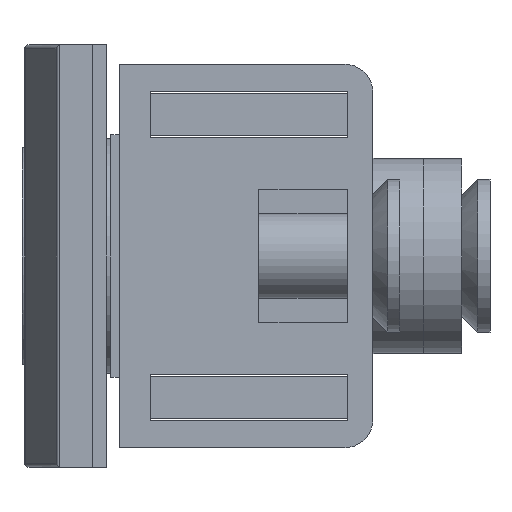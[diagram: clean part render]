
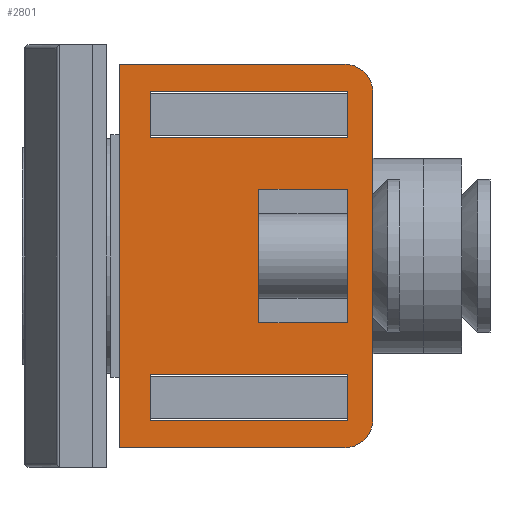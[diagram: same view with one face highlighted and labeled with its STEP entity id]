
A CAD part, left-side view. The second image highlights one B-rep face of the part: STEP entity #2801.
In plain terms, the highlighted planar face has unit normal (-1, 0, 0).
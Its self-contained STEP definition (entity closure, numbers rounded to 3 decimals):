
#19 = CIRCLE ( 'NONE', #7731, 2. ) ;
#40 = CARTESIAN_POINT ( 'NONE',  ( -55.65, -20.5, -4.75 ) ) ;
#138 = EDGE_CURVE ( 'NONE', #3361, #7144, #1543, .T. ) ;
#315 = DIRECTION ( 'NONE',  ( -1., 0., 0. ) ) ;
#484 = ORIENTED_EDGE ( 'NONE', *, *, #2257, .T. ) ;
#497 = DIRECTION ( 'NONE',  ( 0., 1., 0. ) ) ;
#614 = ORIENTED_EDGE ( 'NONE', *, *, #7299, .F. ) ;
#684 = VECTOR ( 'NONE', #13468, 1000. ) ;
#881 = VERTEX_POINT ( 'NONE', #3120 ) ;
#983 = EDGE_CURVE ( 'NONE', #7087, #7706, #12308, .T. ) ;
#1005 = LINE ( 'NONE', #10567, #5048 ) ;
#1063 = DIRECTION ( 'NONE',  ( 0., 0., -1. ) ) ;
#1098 = EDGE_CURVE ( 'NONE', #7706, #6670, #8489, .T. ) ;
#1100 = CARTESIAN_POINT ( 'NONE',  ( -55.65, -6.5, -11.7 ) ) ;
#1118 = FACE_OUTER_BOUND ( 'NONE', #3006, .T. ) ;
#1121 = EDGE_CURVE ( 'NONE', #7144, #2399, #7662, .T. ) ;
#1134 = CARTESIAN_POINT ( 'NONE',  ( -55.65, -20.3, 13.6 ) ) ;
#1237 = ORIENTED_EDGE ( 'NONE', *, *, #6418, .F. ) ;
#1267 = CARTESIAN_POINT ( 'NONE',  ( -55.65, -14.2, -4.75 ) ) ;
#1402 = CARTESIAN_POINT ( 'NONE',  ( -55.65, -22.3, -11.6 ) ) ;
#1515 = VECTOR ( 'NONE', #7108, 1000. ) ;
#1522 = CARTESIAN_POINT ( 'NONE',  ( -55.65, -6.5, 11.7 ) ) ;
#1543 = LINE ( 'NONE', #12998, #6277 ) ;
#1552 = DIRECTION ( 'NONE',  ( 0., 1., 0. ) ) ;
#1604 = DIRECTION ( 'NONE',  ( 0., -1., 0. ) ) ;
#1605 = CARTESIAN_POINT ( 'NONE',  ( -55.65, -20.3, -11.6 ) ) ;
#1871 = DIRECTION ( 'NONE',  ( 1., 0., 0. ) ) ;
#2174 = LINE ( 'NONE', #12464, #6393 ) ;
#2257 = EDGE_CURVE ( 'NONE', #13243, #5780, #10433, .T. ) ;
#2350 = CARTESIAN_POINT ( 'NONE',  ( -55.65, -20.5, -8.4 ) ) ;
#2399 = VERTEX_POINT ( 'NONE', #9880 ) ;
#2473 = ORIENTED_EDGE ( 'NONE', *, *, #138, .F. ) ;
#2523 = CARTESIAN_POINT ( 'NONE',  ( -55.65, -6.5, 8.4 ) ) ;
#2538 = ORIENTED_EDGE ( 'NONE', *, *, #7772, .T. ) ;
#2737 = VERTEX_POINT ( 'NONE', #9933 ) ;
#2801 = ADVANCED_FACE ( 'NONE', ( #8275, #13453, #11476, #1118 ), #9444, .F. ) ;
#2839 = EDGE_CURVE ( 'NONE', #2737, #6183, #5323, .T. ) ;
#2930 = DIRECTION ( 'NONE',  ( 0., 0., -1. ) ) ;
#3006 = EDGE_LOOP ( 'NONE', ( #10787, #8198, #484, #2538, #10483, #8665 ) ) ;
#3120 = CARTESIAN_POINT ( 'NONE',  ( -55.65, -22.3, 11.6 ) ) ;
#3258 = AXIS2_PLACEMENT_3D ( 'NONE', #12438, #1871, #11546 ) ;
#3299 = VECTOR ( 'NONE', #11093, 1000. ) ;
#3314 = CARTESIAN_POINT ( 'NONE',  ( -55.65, -14.2, -4.75 ) ) ;
#3325 = CARTESIAN_POINT ( 'NONE',  ( -55.65, -6.5, -11.7 ) ) ;
#3361 = VERTEX_POINT ( 'NONE', #2523 ) ;
#3444 = VERTEX_POINT ( 'NONE', #13075 ) ;
#3781 = ORIENTED_EDGE ( 'NONE', *, *, #5279, .F. ) ;
#3804 = EDGE_CURVE ( 'NONE', #9912, #13284, #5157, .T. ) ;
#4212 = CARTESIAN_POINT ( 'NONE',  ( -55.65, -20.5, 11.7 ) ) ;
#4278 = DIRECTION ( 'NONE',  ( 0., 0., 1. ) ) ;
#4355 = DIRECTION ( 'NONE',  ( -1., 0., 0. ) ) ;
#4603 = VECTOR ( 'NONE', #1552, 1000. ) ;
#4692 = LINE ( 'NONE', #1522, #8362 ) ;
#4810 = EDGE_LOOP ( 'NONE', ( #12703, #9739, #3781, #7646 ) ) ;
#4953 = DIRECTION ( 'NONE',  ( 0., 0., 1. ) ) ;
#5048 = VECTOR ( 'NONE', #2930, 1000. ) ;
#5060 = DIRECTION ( 'NONE',  ( 0., 0., -1. ) ) ;
#5144 = ORIENTED_EDGE ( 'NONE', *, *, #1121, .F. ) ;
#5157 = CIRCLE ( 'NONE', #11956, 2. ) ;
#5203 = CARTESIAN_POINT ( 'NONE',  ( -55.65, -22.3, 13.6 ) ) ;
#5279 = EDGE_CURVE ( 'NONE', #5372, #7087, #8157, .T. ) ;
#5296 = CARTESIAN_POINT ( 'NONE',  ( -55.65, -20.5, -11.7 ) ) ;
#5323 = LINE ( 'NONE', #6349, #13320 ) ;
#5372 = VERTEX_POINT ( 'NONE', #5296 ) ;
#5521 = DIRECTION ( 'NONE',  ( 0., 0., -1. ) ) ;
#5731 = CARTESIAN_POINT ( 'NONE',  ( -55.65, -20.5, 8.4 ) ) ;
#5780 = VERTEX_POINT ( 'NONE', #7067 ) ;
#5805 = ORIENTED_EDGE ( 'NONE', *, *, #2839, .F. ) ;
#5822 = LINE ( 'NONE', #9048, #3299 ) ;
#5887 = VERTEX_POINT ( 'NONE', #40 ) ;
#6019 = CARTESIAN_POINT ( 'NONE',  ( -55.65, -20.5, -11.7 ) ) ;
#6183 = VERTEX_POINT ( 'NONE', #8263 ) ;
#6277 = VECTOR ( 'NONE', #1604, 1000. ) ;
#6349 = CARTESIAN_POINT ( 'NONE',  ( -55.65, -14.2, 4.75 ) ) ;
#6393 = VECTOR ( 'NONE', #5060, 1000. ) ;
#6418 = EDGE_CURVE ( 'NONE', #12827, #5887, #12967, .T. ) ;
#6670 = VERTEX_POINT ( 'NONE', #9417 ) ;
#6871 = DIRECTION ( 'NONE',  ( 0., 1., 0. ) ) ;
#7067 = CARTESIAN_POINT ( 'NONE',  ( -55.65, -4.3, 13.6 ) ) ;
#7087 = VERTEX_POINT ( 'NONE', #2350 ) ;
#7108 = DIRECTION ( 'NONE',  ( 0., 1., 0. ) ) ;
#7114 = CARTESIAN_POINT ( 'NONE',  ( -55.65, -6.5, 11.7 ) ) ;
#7144 = VERTEX_POINT ( 'NONE', #5731 ) ;
#7160 = LINE ( 'NONE', #12151, #9868 ) ;
#7222 = CARTESIAN_POINT ( 'NONE',  ( -55.65, -14.2, -4.75 ) ) ;
#7299 = EDGE_CURVE ( 'NONE', #2399, #8364, #4692, .T. ) ;
#7450 = EDGE_LOOP ( 'NONE', ( #12619, #5805, #8247, #1237 ) ) ;
#7604 = CARTESIAN_POINT ( 'NONE',  ( -55.65, -20.3, 11.6 ) ) ;
#7646 = ORIENTED_EDGE ( 'NONE', *, *, #12855, .F. ) ;
#7654 = DIRECTION ( 'NONE',  ( 0., -1., 0. ) ) ;
#7662 = LINE ( 'NONE', #4212, #12250 ) ;
#7706 = VERTEX_POINT ( 'NONE', #12330 ) ;
#7731 = AXIS2_PLACEMENT_3D ( 'NONE', #7604, #4355, #10611 ) ;
#7772 = EDGE_CURVE ( 'NONE', #5780, #3444, #2174, .T. ) ;
#7786 = EDGE_CURVE ( 'NONE', #8364, #3361, #1005, .T. ) ;
#7909 = CARTESIAN_POINT ( 'NONE',  ( -55.65, -22.3, -13.6 ) ) ;
#8157 = LINE ( 'NONE', #6019, #684 ) ;
#8198 = ORIENTED_EDGE ( 'NONE', *, *, #8410, .T. ) ;
#8247 = ORIENTED_EDGE ( 'NONE', *, *, #10724, .F. ) ;
#8263 = CARTESIAN_POINT ( 'NONE',  ( -55.65, -14.2, 4.75 ) ) ;
#8275 = FACE_BOUND ( 'NONE', #7450, .T. ) ;
#8362 = VECTOR ( 'NONE', #497, 1000. ) ;
#8364 = VERTEX_POINT ( 'NONE', #7114 ) ;
#8410 = EDGE_CURVE ( 'NONE', #881, #13243, #19, .T. ) ;
#8489 = LINE ( 'NONE', #3325, #8771 ) ;
#8665 = ORIENTED_EDGE ( 'NONE', *, *, #3804, .T. ) ;
#8771 = VECTOR ( 'NONE', #5521, 1000. ) ;
#8806 = CARTESIAN_POINT ( 'NONE',  ( -55.65, -20.3, -13.6 ) ) ;
#8875 = VECTOR ( 'NONE', #10451, 1000. ) ;
#9007 = EDGE_CURVE ( 'NONE', #881, #13284, #5822, .T. ) ;
#9048 = CARTESIAN_POINT ( 'NONE',  ( -55.65, -22.3, 13.6 ) ) ;
#9144 = EDGE_CURVE ( 'NONE', #6183, #12827, #10746, .T. ) ;
#9417 = CARTESIAN_POINT ( 'NONE',  ( -55.65, -6.5, -11.7 ) ) ;
#9444 = PLANE ( 'NONE',  #3258 ) ;
#9496 = LINE ( 'NONE', #1100, #8875 ) ;
#9739 = ORIENTED_EDGE ( 'NONE', *, *, #983, .F. ) ;
#9868 = VECTOR ( 'NONE', #4953, 1000. ) ;
#9880 = CARTESIAN_POINT ( 'NONE',  ( -55.65, -20.5, 11.7 ) ) ;
#9895 = LINE ( 'NONE', #7909, #11274 ) ;
#9912 = VERTEX_POINT ( 'NONE', #8806 ) ;
#9933 = CARTESIAN_POINT ( 'NONE',  ( -55.65, -20.5, 4.75 ) ) ;
#10433 = LINE ( 'NONE', #5203, #4603 ) ;
#10451 = DIRECTION ( 'NONE',  ( 0., -1., 0. ) ) ;
#10483 = ORIENTED_EDGE ( 'NONE', *, *, #13026, .F. ) ;
#10535 = DIRECTION ( 'NONE',  ( 0., 1., 0. ) ) ;
#10567 = CARTESIAN_POINT ( 'NONE',  ( -55.65, -6.5, 11.7 ) ) ;
#10611 = DIRECTION ( 'NONE',  ( 0., 0., -1. ) ) ;
#10724 = EDGE_CURVE ( 'NONE', #5887, #2737, #7160, .T. ) ;
#10746 = LINE ( 'NONE', #1267, #10747 ) ;
#10747 = VECTOR ( 'NONE', #1063, 1000. ) ;
#10787 = ORIENTED_EDGE ( 'NONE', *, *, #9007, .F. ) ;
#11077 = ORIENTED_EDGE ( 'NONE', *, *, #7786, .F. ) ;
#11093 = DIRECTION ( 'NONE',  ( 0., 0., -1. ) ) ;
#11274 = VECTOR ( 'NONE', #6871, 1000. ) ;
#11476 = FACE_BOUND ( 'NONE', #11515, .T. ) ;
#11515 = EDGE_LOOP ( 'NONE', ( #11077, #614, #5144, #2473 ) ) ;
#11546 = DIRECTION ( 'NONE',  ( 0., 0., -1. ) ) ;
#11618 = VECTOR ( 'NONE', #7654, 1000. ) ;
#11956 = AXIS2_PLACEMENT_3D ( 'NONE', #1605, #315, #12933 ) ;
#12151 = CARTESIAN_POINT ( 'NONE',  ( -55.65, -20.5, -4.75 ) ) ;
#12250 = VECTOR ( 'NONE', #4278, 1000. ) ;
#12308 = LINE ( 'NONE', #13391, #1515 ) ;
#12330 = CARTESIAN_POINT ( 'NONE',  ( -55.65, -6.5, -8.4 ) ) ;
#12438 = CARTESIAN_POINT ( 'NONE',  ( -55.65, -22.3, 13.6 ) ) ;
#12464 = CARTESIAN_POINT ( 'NONE',  ( -55.65, -4.3, 13.6 ) ) ;
#12619 = ORIENTED_EDGE ( 'NONE', *, *, #9144, .F. ) ;
#12703 = ORIENTED_EDGE ( 'NONE', *, *, #1098, .F. ) ;
#12827 = VERTEX_POINT ( 'NONE', #7222 ) ;
#12855 = EDGE_CURVE ( 'NONE', #6670, #5372, #9496, .T. ) ;
#12933 = DIRECTION ( 'NONE',  ( 0., 0., -1. ) ) ;
#12967 = LINE ( 'NONE', #3314, #11618 ) ;
#12998 = CARTESIAN_POINT ( 'NONE',  ( -55.65, -6.5, 8.4 ) ) ;
#13026 = EDGE_CURVE ( 'NONE', #9912, #3444, #9895, .T. ) ;
#13075 = CARTESIAN_POINT ( 'NONE',  ( -55.65, -4.3, -13.6 ) ) ;
#13243 = VERTEX_POINT ( 'NONE', #1134 ) ;
#13284 = VERTEX_POINT ( 'NONE', #1402 ) ;
#13320 = VECTOR ( 'NONE', #10535, 1000. ) ;
#13391 = CARTESIAN_POINT ( 'NONE',  ( -55.65, -6.5, -8.4 ) ) ;
#13453 = FACE_BOUND ( 'NONE', #4810, .T. ) ;
#13468 = DIRECTION ( 'NONE',  ( 0., 0., 1. ) ) ;
